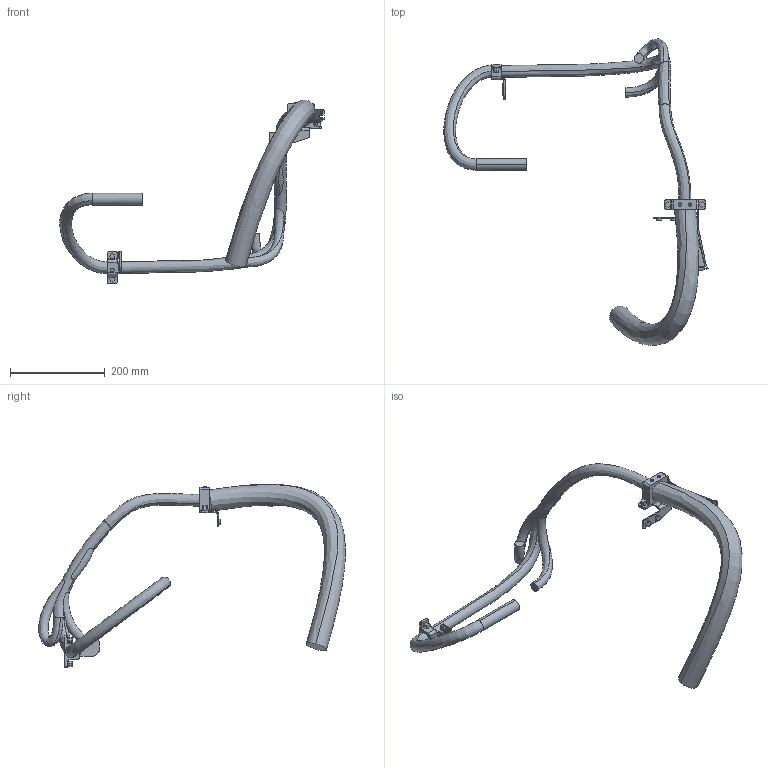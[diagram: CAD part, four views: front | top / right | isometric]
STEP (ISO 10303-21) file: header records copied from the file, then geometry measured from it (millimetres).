
FILE_DESCRIPTION (( 'STEP AP214' ), '1' );
FILE_NAME ('IRB5710-LID_70kg-270_OmniCore_rev00_LINK03m_CABLE.step', '2025-07-07T14:20:05', ( '' ), ( '' ), 'SwSTEP 2.0', 'SolidWorks 2024', '' );
FILE_SCHEMA (( 'AUTOMOTIVE_DESIGN' ));
Length unit declared in the file: millimetre
Products named in the file (1): IRB5710-LID_70kg-270_OmniCore_rev00_LINK03m_CABLE
Bounding box: 557.71 x 647.08 x 387.8 mm (x, y, z)
Volume: 1742701.8 mm3; surface area: 237191.4 mm2
Topology: 1 solids, 3 shells, 254 faces, 679 edges, 443 vertices
Faces by surface type: plane 136, cylinder 95, bspline 15, cone 8
Entity records: 15489 total; most frequent: CARTESIAN_POINT 8886, ORIENTED_EDGE 1358, DIRECTION 1298, EDGE_CURVE 679, AXIS2_PLACEMENT_3D 452, VERTEX_POINT 443, VECTOR 394, LINE 394
